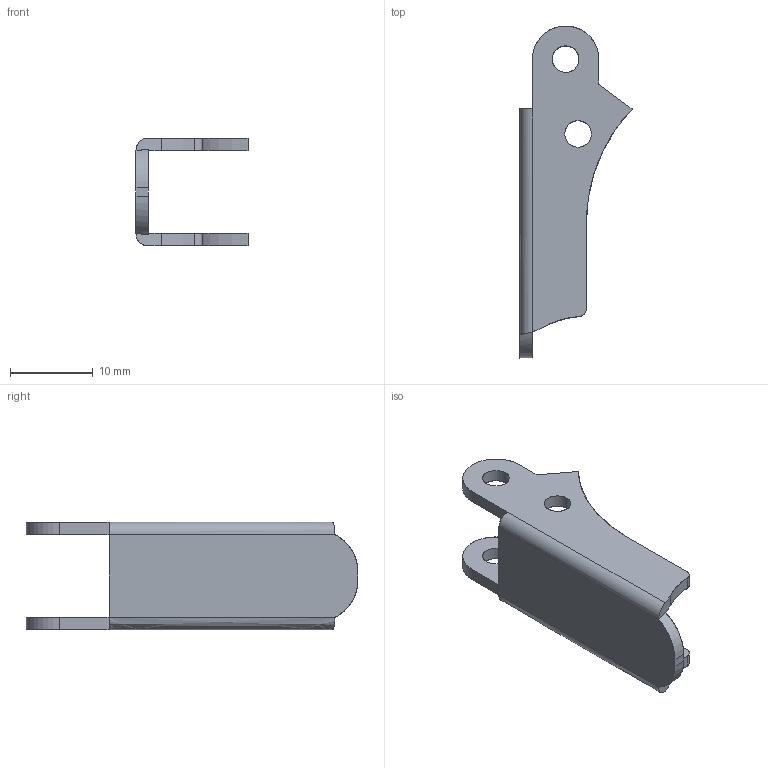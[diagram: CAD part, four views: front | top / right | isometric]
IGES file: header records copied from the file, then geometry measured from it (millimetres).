
Start section: SolidWorks IGES FILE using analytic representation for surfaces
Global section: file name: C:\WINNT\Profiles\cbrechard\Bureau\GE 571\534.010.00.IGS; native system: SolidWorks 2001Plus by SolidWorks Corporation; preprocessor: Version 5.3; author: CBRECHARD; date: 050125.141520; units: millimetre
Bounding box: 13.5 x 40 x 13 mm (x, y, z)
Surface area: 2005.5 mm2 (no closed solid volume)
Topology: 0 solids, 0 shells, 38 faces, 610 edges, 610 vertices
Faces by surface type: revolution 22, bspline 16
